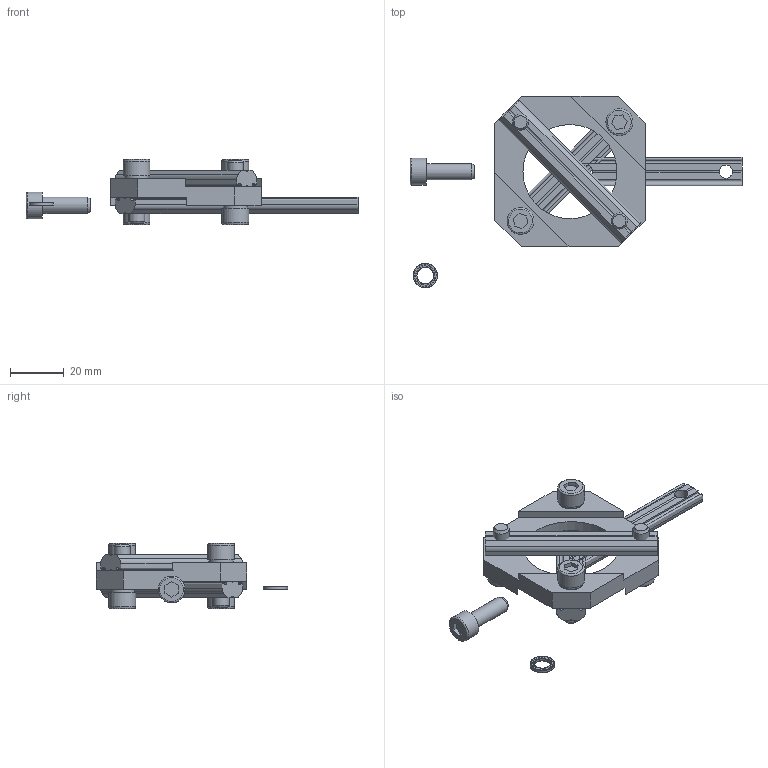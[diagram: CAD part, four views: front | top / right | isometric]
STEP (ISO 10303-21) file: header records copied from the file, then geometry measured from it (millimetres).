
FILE_DESCRIPTION( ( 'Unknown' ), '1' );
FILE_NAME( 'C:/Users/Fabrizio/Desktop/DISEGNI ACCESSORI FP SOLIDEDGE/CA.KPLJU.4040.stp', 'Unknown', ( 'Unknown' ), ( 'Unknown' ), 'PSStep 13.0', 'Unknown', ' ' );
FILE_SCHEMA( ( 'AUTOMOTIVE_DESIGN { 1 0 10303 214 1 1 1 1 }' ) );
Length unit declared in the file: millimetre
Products named in the file (5): Assem1; KPLJU.4040; V-tcei M  6 x 18; CA.GWP.6.52; R.6.SCH
Bounding box: 123.5 x 71.14 x 24.2 mm (x, y, z)
Volume: 36305.9 mm3; surface area: 23941.1 mm2
Topology: 10 solids, 15 shells, 1172 faces, 3445 edges, 2286 vertices
Faces by surface type: plane 1085, cylinder 72, torus 10, cone 5
Full cylindrical faces by diameter (mm): 4.917 x6, 6 x5, 6.2 x13, 9 x5, 10 x5, 35 x2
Entity records: 10471 total; most frequent: CARTESIAN_POINT 1582, DIRECTION 1507, ORIENTED_EDGE 1480, EDGE_CURVE 740, AXIS2_PLACEMENT_3D 504, VERTEX_POINT 499, LINE 499, VECTOR 499
